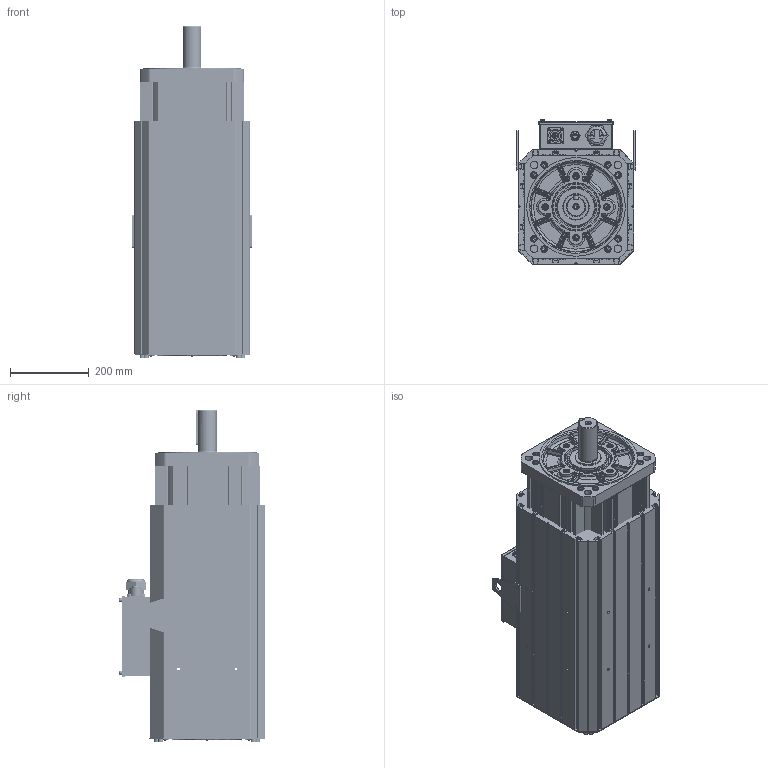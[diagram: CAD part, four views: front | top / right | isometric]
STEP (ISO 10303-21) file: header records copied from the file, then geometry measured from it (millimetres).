
FILE_DESCRIPTION (( 'STEP AP214' ), '1' );
FILE_NAME ('VM7-M26D-03015-D2FNH.STEP', '2022-04-02T01:16:31', ( '' ), ( '' ), 'SwSTEP 2.0', 'SolidWorks 2014', '' );
FILE_SCHEMA (( 'AUTOMOTIVE_DESIGN' ));
Length unit declared in the file: millimetre
Products named in the file (3): VM7-M26D-03015-D2FNH; 翋极; 俋褲
Assembly tree (2 placements, depth 2):
  VM7-M26D-03015-D2FNH
    翋极
    俋褲
Bounding box: 302 x 368.5 x 842 mm (x, y, z)
Volume: 25187717.9 mm3; surface area: 4215612.7 mm2
Topology: 120 solids, 120 shells, 4432 faces, 11332 edges, 7180 vertices
Faces by surface type: plane 2597, cylinder 1089, bspline 445, cone 301
Entity records: 152572 total; most frequent: CARTESIAN_POINT 45525, ORIENTED_EDGE 22412, DIRECTION 21224, EDGE_CURVE 11206, VECTOR 7212, LINE 7212, VERTEX_POINT 7180, AXIS2_PLACEMENT_3D 7006
